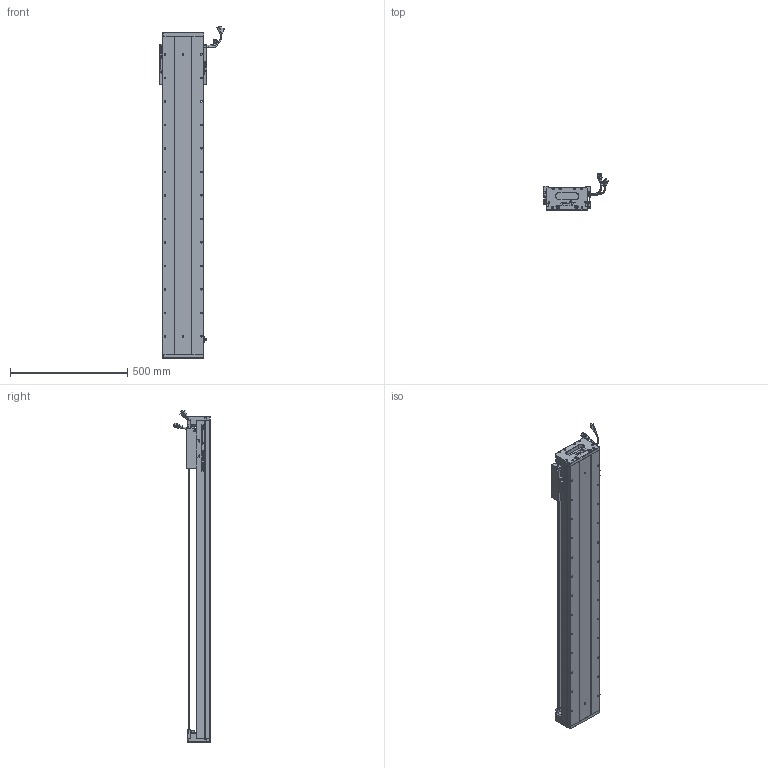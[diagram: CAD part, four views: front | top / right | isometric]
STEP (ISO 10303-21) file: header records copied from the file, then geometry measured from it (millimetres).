
FILE_DESCRIPTION (( 'STEP AP203' ), '1' );
FILE_NAME ('Z2-RY170D-1-L500-B-K.SLDASM_1100.step', '2021-05-17T09:07:35', ( '盈信电脑' ), ( '东莞市道滘镇水果街19号' ), 'SwSTEP 2.0', 'SolidWorks 2016', '' );
FILE_SCHEMA (( 'CONFIG_CONTROL_DESIGN' ));
Length unit declared in the file: millimetre
Products named in the file (36): LABEL; SCREW-M1.7; Z-RY170詩湍狟揤裔; 140蚥薯蝶輸; SCREW-M1.6-2; SCALE-Part-2; 榋妏寠巭燃_暯_M2_2; HARNESS-Part-2; Z-RY170詩湍奻揤裔; SHIELDPLATE; SCREW-M1.6; SCALE-Part-1; 080黍杅芛假蚾釱21遴; COVER; Z2-RY170臏賑輸(21遴); LABEL-Part-1; PSLH080_PSLF2; COVER-Part-1; HOLDER0; Z2-RY170-L500詩湍145mm遵_1100; RY170直线电机感应器672光电感应片; SCALE; SCREW-M1.6-1; Z-170詩湍傷裔啣; SCREW-M1.7-1; SEAL-Part-1; PBU_SHEET; 170-Z-臏賑輸盄裔(21遴); Z2-RY170-L500耀郪菁釱_1100; HARNESS; 140雄赽晤鎢ん堤盄; SEAL; HARNESS-Part-1; SCREW-M1.6-3; Z2-RY170D-1-L500-B-K.SLDASM_1100; 覜茼ん672
Assembly tree (41 placements, depth 4):
  Z2-RY170D-1-L500-B-K.SLDASM_1100
    Z2-RY170-L500耀郪菁釱_1100
    RY170直线电机感应器672光电感应片
    Z2-RY170臏賑輸(21遴)
    覜茼ん672  x3
    PSLH080_PSLF2
      SCALE
        SCALE-Part-1
        SCALE-Part-2
      HARNESS
        HARNESS-Part-1
        HARNESS-Part-2
      LABEL
        LABEL-Part-1
      COVER
        COVER-Part-1
      SEAL
        SEAL-Part-1
      榋妏寠巭燃_暯_M2_2
      SHIELDPLATE
      SCREW-M1.7
      SCREW-M1.7-1
      PBU_SHEET
      SCREW-M1.6
      SCREW-M1.6-1
      SCREW-M1.6-2
      SCREW-M1.6-3
      HOLDER0
    080黍杅芛假蚾釱21遴
    Z2-RY170-L500詩湍145mm遵_1100
    Z-170詩湍傷裔啣  x2
    Z-RY170詩湍奻揤裔  x2
    Z-RY170詩湍狟揤裔  x2
    140蚥薯蝶輸  x2
    170-Z-臏賑輸盄裔(21遴)
    140雄赽晤鎢ん堤盄
Bounding box: 275.34 x 158.11 x 1413.72 mm (x, y, z)
Volume: 7540168.3 mm3; surface area: 1846688.7 mm2
Topology: 36 solids, 36 shells, 3230 faces, 8705 edges, 5461 vertices
Faces by surface type: cylinder 1500, plane 1188, cone 420, torus 69, bspline 53
Entity records: 96097 total; most frequent: CARTESIAN_POINT 24946, ORIENTED_EDGE 14174, DIRECTION 13815, EDGE_CURVE 7087, AXIS2_PLACEMENT_3D 5064, VERTEX_POINT 4579, LINE 3687, VECTOR 3687
